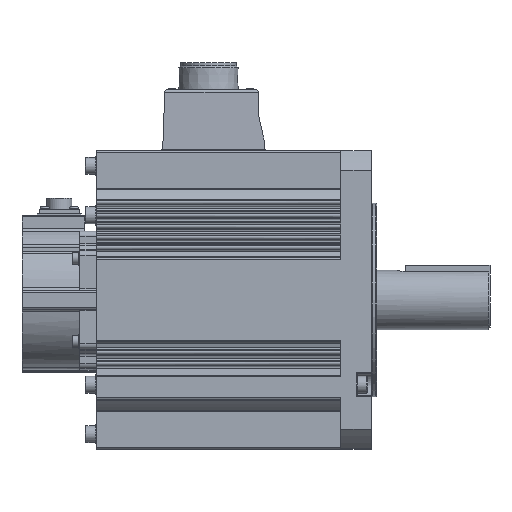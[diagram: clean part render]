
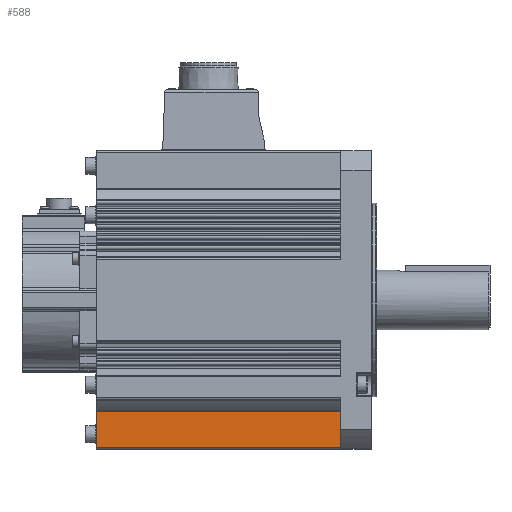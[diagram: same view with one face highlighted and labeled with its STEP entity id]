
A CAD part, top view. The second image highlights one B-rep face of the part: STEP entity #588.
In plain terms, the highlighted planar face has unit normal (0, 0, 1).
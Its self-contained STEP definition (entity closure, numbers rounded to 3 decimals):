
#588 = ADVANCED_FACE( '', ( #1843 ), #1844, .F. );
#1843 = FACE_OUTER_BOUND( '', #3320, .T. );
#1844 = PLANE( '', #3321 );
#3320 = EDGE_LOOP( '', ( #7514, #7515, #7516, #7517 ) );
#3321 = AXIS2_PLACEMENT_3D( '', #7518, #7519, #7520 );
#7514 = ORIENTED_EDGE( '', *, *, #9075, .T. );
#7515 = ORIENTED_EDGE( '', *, *, #9586, .F. );
#7516 = ORIENTED_EDGE( '', *, *, #9225, .F. );
#7517 = ORIENTED_EDGE( '', *, *, #9587, .T. );
#7518 = CARTESIAN_POINT( '', ( -18., -65.915, 58.8 ) );
#7519 = DIRECTION( '', ( 0., 0., -1. ) );
#7520 = DIRECTION( '', ( -1., 0., 0. ) );
#9075 = EDGE_CURVE( '', #11212, #11210, #11213, .T. );
#9225 = EDGE_CURVE( '', #11477, #11479, #11480, .T. );
#9586 = EDGE_CURVE( '', #11479, #11210, #12021, .T. );
#9587 = EDGE_CURVE( '', #11477, #11212, #12022, .T. );
#11210 = VERTEX_POINT( '', #14406 );
#11212 = VERTEX_POINT( '', #14408 );
#11213 = LINE( '', #14409, #14410 );
#11477 = VERTEX_POINT( '', #14791 );
#11479 = VERTEX_POINT( '', #14793 );
#11480 = LINE( '', #14794, #14795 );
#12021 = LINE( '', #15585, #15586 );
#12022 = LINE( '', #15587, #15588 );
#14406 = CARTESIAN_POINT( '', ( -162., -87.003, 58.8 ) );
#14408 = CARTESIAN_POINT( '', ( -162., -65.915, 58.8 ) );
#14409 = CARTESIAN_POINT( '', ( -162., -65.915, 58.8 ) );
#14410 = VECTOR( '', #17254, 1000. );
#14791 = CARTESIAN_POINT( '', ( -18., -65.915, 58.8 ) );
#14793 = CARTESIAN_POINT( '', ( -18., -87.003, 58.8 ) );
#14794 = CARTESIAN_POINT( '', ( -18., -65.915, 58.8 ) );
#14795 = VECTOR( '', #17552, 1000. );
#15585 = CARTESIAN_POINT( '', ( -18., -87.003, 58.8 ) );
#15586 = VECTOR( '', #18154, 1000. );
#15587 = CARTESIAN_POINT( '', ( -18., -65.915, 58.8 ) );
#15588 = VECTOR( '', #18155, 1000. );
#17254 = DIRECTION( '', ( 0., -1., 0. ) );
#17552 = DIRECTION( '', ( 0., -1., 0. ) );
#18154 = DIRECTION( '', ( -1., 0., 0. ) );
#18155 = DIRECTION( '', ( -1., 0., 0. ) );
